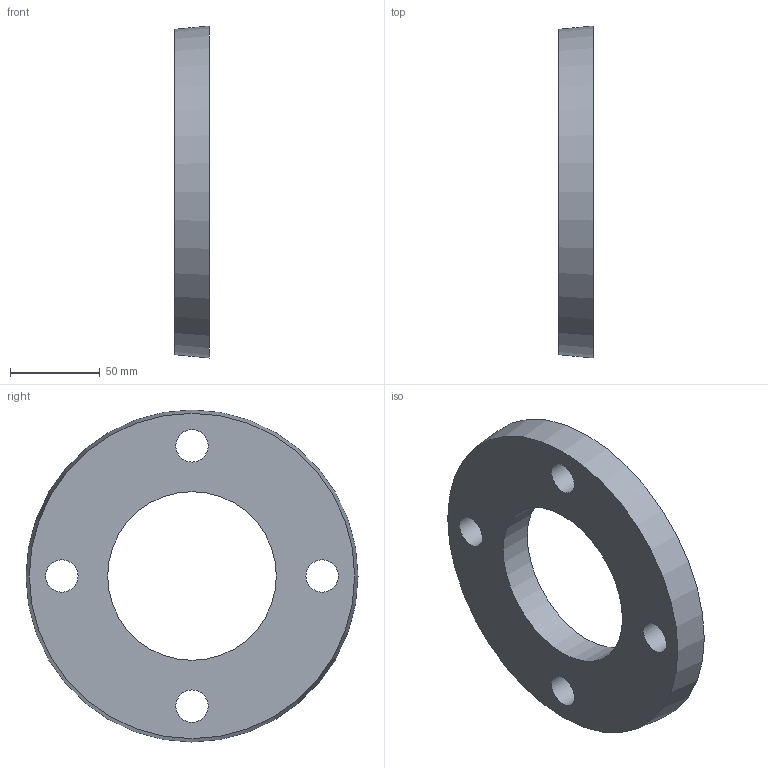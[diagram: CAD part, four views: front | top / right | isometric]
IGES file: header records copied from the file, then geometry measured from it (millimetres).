
Global section: file name: 059000075.ipt; native system: Autodesk Inventor 2015; preprocessor: unknown; author: KIM; date: 20171207.165916; units: millimetre
Bounding box: 19 x 185 x 185 mm (x, y, z)
Volume: 349383 mm3; surface area: 57673.3 mm2
Topology: 1 solids, 1 shells, 8 faces, 20 edges, 14 vertices
Faces by surface type: revolution 5, plane 2, cone 1
